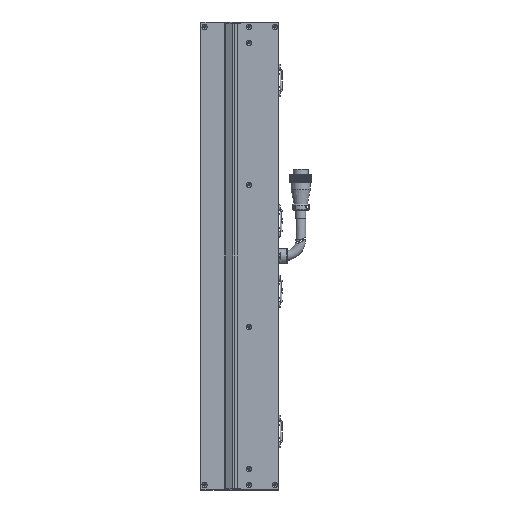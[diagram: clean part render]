
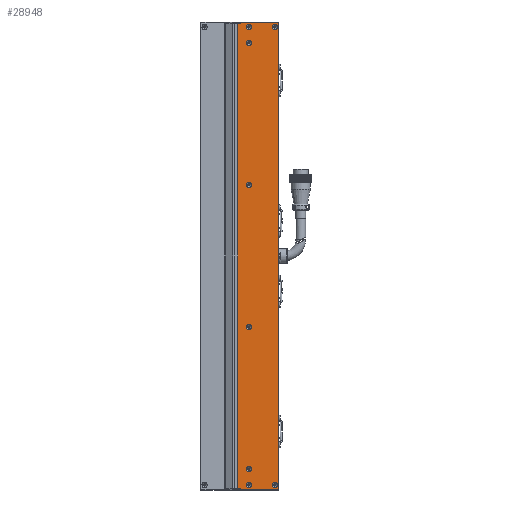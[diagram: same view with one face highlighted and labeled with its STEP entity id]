
A CAD part, left-side view. The second image highlights one B-rep face of the part: STEP entity #28948.
In plain terms, the highlighted planar face has unit normal (-1, 0, 0).
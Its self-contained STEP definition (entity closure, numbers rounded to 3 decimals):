
#100 = CARTESIAN_POINT ( 'NONE',  ( -24.998, -67.5, 274. ) ) ;
#1398 = CIRCLE ( 'NONE', #49109, 3.15 ) ;
#2077 = CARTESIAN_POINT ( 'NONE',  ( -24.998, -72., -279.5 ) ) ;
#2236 = CARTESIAN_POINT ( 'NONE',  ( -24.998, -26.5, 271. ) ) ;
#3769 = CIRCLE ( 'NONE', #82507, 3.15 ) ;
#5148 = EDGE_CURVE ( 'NONE', #41913, #41913, #1398, .T. ) ;
#5689 = DIRECTION ( 'NONE',  ( -1., 0., 0. ) ) ;
#7456 = ORIENTED_EDGE ( 'NONE', *, *, #74479, .T. ) ;
#8680 = CARTESIAN_POINT ( 'NONE',  ( -24.998, -26.5, -278. ) ) ;
#9934 = EDGE_CURVE ( 'NONE', #24600, #24600, #61544, .T. ) ;
#10649 = CIRCLE ( 'NONE', #97846, 3.15 ) ;
#11454 = CARTESIAN_POINT ( 'NONE',  ( -24.998, -36.5, -81.85 ) ) ;
#11927 = CARTESIAN_POINT ( 'NONE',  ( -24.998, -36.5, 274. ) ) ;
#12977 = VERTEX_POINT ( 'NONE', #90912 ) ;
#13625 = VECTOR ( 'NONE', #34943, 1000. ) ;
#13659 = DIRECTION ( 'NONE',  ( 0., 0., 1. ) ) ;
#14209 = VECTOR ( 'NONE', #25122, 1000. ) ;
#14843 = VERTEX_POINT ( 'NONE', #55473 ) ;
#16140 = CARTESIAN_POINT ( 'NONE',  ( -24.998, -72.5, 278. ) ) ;
#16966 = EDGE_CURVE ( 'NONE', #23094, #94907, #43807, .T. ) ;
#16973 = DIRECTION ( 'NONE',  ( 0., 0., 1. ) ) ;
#18207 = VECTOR ( 'NONE', #31160, 1000. ) ;
#18215 = ORIENTED_EDGE ( 'NONE', *, *, #78986, .T. ) ;
#18476 = CARTESIAN_POINT ( 'NONE',  ( -24.998, -26.5, 279.5 ) ) ;
#18930 = EDGE_CURVE ( 'NONE', #12977, #26162, #65726, .T. ) ;
#19121 = CARTESIAN_POINT ( 'NONE',  ( -24.998, -72.5, 279.5 ) ) ;
#21959 = CARTESIAN_POINT ( 'NONE',  ( -24.998, -23.25, -278. ) ) ;
#22439 = DIRECTION ( 'NONE',  ( 0., 0., 1. ) ) ;
#22745 = VECTOR ( 'NONE', #64673, 1000. ) ;
#23094 = VERTEX_POINT ( 'NONE', #71026 ) ;
#23511 = DIRECTION ( 'NONE',  ( 0., 0., 1. ) ) ;
#24600 = VERTEX_POINT ( 'NONE', #79673 ) ;
#25122 = DIRECTION ( 'NONE',  ( 0., 0., -1. ) ) ;
#25648 = DIRECTION ( 'NONE',  ( 0., 0., -1. ) ) ;
#26162 = VERTEX_POINT ( 'NONE', #54425 ) ;
#28382 = CARTESIAN_POINT ( 'NONE',  ( -24.998, -36.5, -255. ) ) ;
#28948 = ADVANCED_FACE ( 'NONE', ( #53717, #32709, #54859, #40171, #62279, #100537, #77147, #90724, #69673 ), #30573, .F. ) ;
#30573 = PLANE ( 'NONE',  #54802 ) ;
#30633 = ORIENTED_EDGE ( 'NONE', *, *, #45769, .F. ) ;
#30716 = AXIS2_PLACEMENT_3D ( 'NONE', #28382, #5689, #13659 ) ;
#31160 = DIRECTION ( 'NONE',  ( 0., -1., 0. ) ) ;
#31172 = DIRECTION ( 'NONE',  ( -1., 0., 0. ) ) ;
#32370 = CARTESIAN_POINT ( 'NONE',  ( -24.998, -72., 279.5 ) ) ;
#32709 = FACE_BOUND ( 'NONE', #96887, .T. ) ;
#33142 = ORIENTED_EDGE ( 'NONE', *, *, #46820, .T. ) ;
#33748 = CIRCLE ( 'NONE', #35563, 3.15 ) ;
#33786 = CARTESIAN_POINT ( 'NONE',  ( -24.998, -26.5, -271. ) ) ;
#34228 = EDGE_LOOP ( 'NONE', ( #45723 ) ) ;
#34943 = DIRECTION ( 'NONE',  ( 0., 0., 1. ) ) ;
#35563 = AXIS2_PLACEMENT_3D ( 'NONE', #51390, #98213, #59624 ) ;
#35867 = EDGE_LOOP ( 'NONE', ( #89819 ) ) ;
#36680 = AXIS2_PLACEMENT_3D ( 'NONE', #39738, #63138, #87235 ) ;
#37435 = ORIENTED_EDGE ( 'NONE', *, *, #97841, .F. ) ;
#38060 = VERTEX_POINT ( 'NONE', #58981 ) ;
#38266 = CARTESIAN_POINT ( 'NONE',  ( -24.998, -36.5, 258.15 ) ) ;
#38588 = DIRECTION ( 'NONE',  ( 0., 0., -1. ) ) ;
#39270 = VERTEX_POINT ( 'NONE', #11454 ) ;
#39738 = CARTESIAN_POINT ( 'NONE',  ( -24.998, -67.5, -274. ) ) ;
#40171 = FACE_BOUND ( 'NONE', #69961, .T. ) ;
#41913 = VERTEX_POINT ( 'NONE', #87956 ) ;
#43241 = EDGE_CURVE ( 'NONE', #39270, #39270, #84485, .T. ) ;
#43732 = LINE ( 'NONE', #19121, #57232 ) ;
#43807 = LINE ( 'NONE', #56760, #22745 ) ;
#43947 = CARTESIAN_POINT ( 'NONE',  ( -24.998, -23.25, -278. ) ) ;
#44327 = DIRECTION ( 'NONE',  ( 0., 0., 1. ) ) ;
#45723 = ORIENTED_EDGE ( 'NONE', *, *, #65299, .F. ) ;
#45769 = EDGE_CURVE ( 'NONE', #38060, #38060, #10649, .T. ) ;
#46251 = ORIENTED_EDGE ( 'NONE', *, *, #16966, .T. ) ;
#46816 = AXIS2_PLACEMENT_3D ( 'NONE', #86022, #31172, #62609 ) ;
#46820 = EDGE_CURVE ( 'NONE', #94907, #80237, #83174, .T. ) ;
#47372 = VERTEX_POINT ( 'NONE', #38266 ) ;
#49109 = AXIS2_PLACEMENT_3D ( 'NONE', #70332, #85837, #22439 ) ;
#49291 = EDGE_LOOP ( 'NONE', ( #89580 ) ) ;
#49351 = ORIENTED_EDGE ( 'NONE', *, *, #85626, .F. ) ;
#50242 = VECTOR ( 'NONE', #25648, 1000. ) ;
#50487 = EDGE_LOOP ( 'NONE', ( #83104 ) ) ;
#51390 = CARTESIAN_POINT ( 'NONE',  ( -24.998, -36.5, 255. ) ) ;
#53706 = EDGE_LOOP ( 'NONE', ( #18215, #7456, #46251, #33142, #77051, #76450, #78804, #71369 ) ) ;
#53717 = FACE_BOUND ( 'NONE', #49291, .T. ) ;
#54121 = ORIENTED_EDGE ( 'NONE', *, *, #43241, .F. ) ;
#54340 = CARTESIAN_POINT ( 'NONE',  ( -24.998, -72.5, -278. ) ) ;
#54425 = CARTESIAN_POINT ( 'NONE',  ( -24.998, -26.5, 278. ) ) ;
#54802 = AXIS2_PLACEMENT_3D ( 'NONE', #16140, #86100, #38588 ) ;
#54859 = FACE_BOUND ( 'NONE', #35867, .T. ) ;
#55473 = CARTESIAN_POINT ( 'NONE',  ( -24.998, -67.5, 277.15 ) ) ;
#55546 = EDGE_CURVE ( 'NONE', #91003, #26162, #94588, .T. ) ;
#55603 = VERTEX_POINT ( 'NONE', #95102 ) ;
#55832 = VECTOR ( 'NONE', #95192, 1000. ) ;
#56120 = LINE ( 'NONE', #33786, #14209 ) ;
#56532 = EDGE_CURVE ( 'NONE', #91958, #12977, #66588, .T. ) ;
#56760 = CARTESIAN_POINT ( 'NONE',  ( -24.998, -72.5, -279.5 ) ) ;
#57232 = VECTOR ( 'NONE', #97003, 1000. ) ;
#57470 = VERTEX_POINT ( 'NONE', #60014 ) ;
#58236 = EDGE_LOOP ( 'NONE', ( #37435 ) ) ;
#58763 = DIRECTION ( 'NONE',  ( -1., 0., 0. ) ) ;
#58981 = CARTESIAN_POINT ( 'NONE',  ( -24.998, -36.5, 277.15 ) ) ;
#59624 = DIRECTION ( 'NONE',  ( 0., 0., 1. ) ) ;
#59954 = DIRECTION ( 'NONE',  ( 0., 0., 1. ) ) ;
#60014 = CARTESIAN_POINT ( 'NONE',  ( -24.998, -67.5, -270.85 ) ) ;
#60088 = EDGE_CURVE ( 'NONE', #80237, #91003, #43732, .T. ) ;
#61544 = CIRCLE ( 'NONE', #30716, 3.15 ) ;
#62279 = FACE_BOUND ( 'NONE', #50487, .T. ) ;
#62609 = DIRECTION ( 'NONE',  ( 0., 0., 1. ) ) ;
#63138 = DIRECTION ( 'NONE',  ( -1., 0., 0. ) ) ;
#64673 = DIRECTION ( 'NONE',  ( 0., -1., 0. ) ) ;
#65299 = EDGE_CURVE ( 'NONE', #57470, #57470, #90191, .T. ) ;
#65726 = LINE ( 'NONE', #71401, #55832 ) ;
#66588 = LINE ( 'NONE', #43947, #13625 ) ;
#68216 = DIRECTION ( 'NONE',  ( -1., 0., 0. ) ) ;
#69673 = FACE_OUTER_BOUND ( 'NONE', #53706, .T. ) ;
#69961 = EDGE_LOOP ( 'NONE', ( #54121 ) ) ;
#70332 = CARTESIAN_POINT ( 'NONE',  ( -24.998, -36.5, 85. ) ) ;
#71026 = CARTESIAN_POINT ( 'NONE',  ( -24.998, -26.5, -279.5 ) ) ;
#71054 = CARTESIAN_POINT ( 'NONE',  ( -24.998, -72., 278. ) ) ;
#71369 = ORIENTED_EDGE ( 'NONE', *, *, #56532, .F. ) ;
#71401 = CARTESIAN_POINT ( 'NONE',  ( -24.998, -72.5, 278. ) ) ;
#74479 = EDGE_CURVE ( 'NONE', #82837, #23094, #56120, .T. ) ;
#76450 = ORIENTED_EDGE ( 'NONE', *, *, #55546, .T. ) ;
#77051 = ORIENTED_EDGE ( 'NONE', *, *, #60088, .T. ) ;
#77147 = FACE_BOUND ( 'NONE', #34228, .T. ) ;
#78804 = ORIENTED_EDGE ( 'NONE', *, *, #18930, .F. ) ;
#78986 = EDGE_CURVE ( 'NONE', #91958, #82837, #83539, .T. ) ;
#79673 = CARTESIAN_POINT ( 'NONE',  ( -24.998, -36.5, -251.85 ) ) ;
#80237 = VERTEX_POINT ( 'NONE', #32370 ) ;
#82507 = AXIS2_PLACEMENT_3D ( 'NONE', #100, #86915, #23511 ) ;
#82837 = VERTEX_POINT ( 'NONE', #8680 ) ;
#83104 = ORIENTED_EDGE ( 'NONE', *, *, #5148, .F. ) ;
#83174 = LINE ( 'NONE', #71054, #84363 ) ;
#83539 = LINE ( 'NONE', #54340, #18207 ) ;
#84363 = VECTOR ( 'NONE', #16973, 1000. ) ;
#84485 = CIRCLE ( 'NONE', #46816, 3.15 ) ;
#85626 = EDGE_CURVE ( 'NONE', #47372, #47372, #33748, .T. ) ;
#85837 = DIRECTION ( 'NONE',  ( -1., 0., 0. ) ) ;
#86022 = CARTESIAN_POINT ( 'NONE',  ( -24.998, -36.5, -85. ) ) ;
#86100 = DIRECTION ( 'NONE',  ( 1., 0., 0. ) ) ;
#86915 = DIRECTION ( 'NONE',  ( -1., 0., 0. ) ) ;
#87235 = DIRECTION ( 'NONE',  ( 0., 0., 1. ) ) ;
#87956 = CARTESIAN_POINT ( 'NONE',  ( -24.998, -36.5, 88.15 ) ) ;
#89580 = ORIENTED_EDGE ( 'NONE', *, *, #100591, .F. ) ;
#89666 = AXIS2_PLACEMENT_3D ( 'NONE', #98875, #68216, #59954 ) ;
#89819 = ORIENTED_EDGE ( 'NONE', *, *, #9934, .F. ) ;
#90191 = CIRCLE ( 'NONE', #36680, 3.15 ) ;
#90324 = CIRCLE ( 'NONE', #89666, 3.15 ) ;
#90724 = FACE_BOUND ( 'NONE', #58236, .T. ) ;
#90912 = CARTESIAN_POINT ( 'NONE',  ( -24.998, -23.25, 278. ) ) ;
#91003 = VERTEX_POINT ( 'NONE', #18476 ) ;
#91958 = VERTEX_POINT ( 'NONE', #21959 ) ;
#94588 = LINE ( 'NONE', #2236, #50242 ) ;
#94907 = VERTEX_POINT ( 'NONE', #2077 ) ;
#95102 = CARTESIAN_POINT ( 'NONE',  ( -24.998, -36.5, -270.85 ) ) ;
#95192 = DIRECTION ( 'NONE',  ( 0., -1., 0. ) ) ;
#96887 = EDGE_LOOP ( 'NONE', ( #30633 ) ) ;
#97003 = DIRECTION ( 'NONE',  ( 0., 1., 0. ) ) ;
#97841 = EDGE_CURVE ( 'NONE', #55603, #55603, #90324, .T. ) ;
#97846 = AXIS2_PLACEMENT_3D ( 'NONE', #11927, #58763, #44327 ) ;
#98213 = DIRECTION ( 'NONE',  ( -1., 0., 0. ) ) ;
#98875 = CARTESIAN_POINT ( 'NONE',  ( -24.998, -36.5, -274. ) ) ;
#99474 = EDGE_LOOP ( 'NONE', ( #49351 ) ) ;
#100537 = FACE_BOUND ( 'NONE', #99474, .T. ) ;
#100591 = EDGE_CURVE ( 'NONE', #14843, #14843, #3769, .T. ) ;
